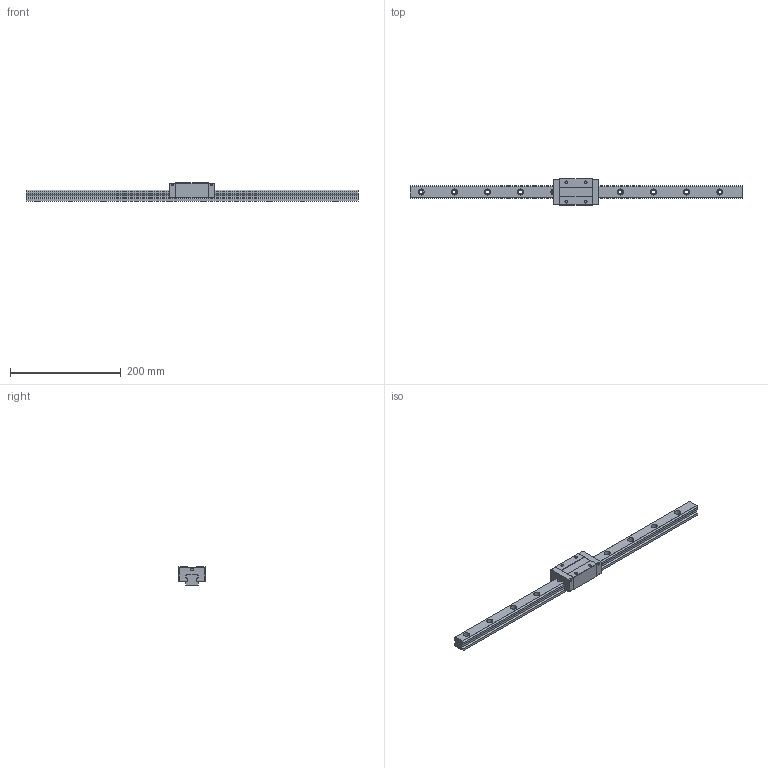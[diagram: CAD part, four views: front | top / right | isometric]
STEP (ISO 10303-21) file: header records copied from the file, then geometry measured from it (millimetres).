
FILE_DESCRIPTION (( 'STEP AP203' ), '1' );
FILE_NAME ('TRS25VN-XN.STEP', '2024-06-12T07:58:45', ( '' ), ( '' ), 'SwSTEP 2.0', 'SolidWorks 2022', '' );
FILE_SCHEMA (( 'CONFIG_CONTROL_DESIGN' ));
Length unit declared in the file: millimetre
Products named in the file (1): TRS25VN-XN
Bounding box: 600 x 48 x 33 mm (x, y, z)
Volume: 313839.2 mm3; surface area: 76229.5 mm2
Topology: 2 solids, 2 shells, 192 faces, 496 edges, 328 vertices
Faces by surface type: cylinder 96, plane 96
Entity records: 6023 total; most frequent: DIRECTION 1074, CARTESIAN_POINT 1017, ORIENTED_EDGE 992, EDGE_CURVE 496, AXIS2_PLACEMENT_3D 385, VERTEX_POINT 328, VECTOR 304, LINE 304
